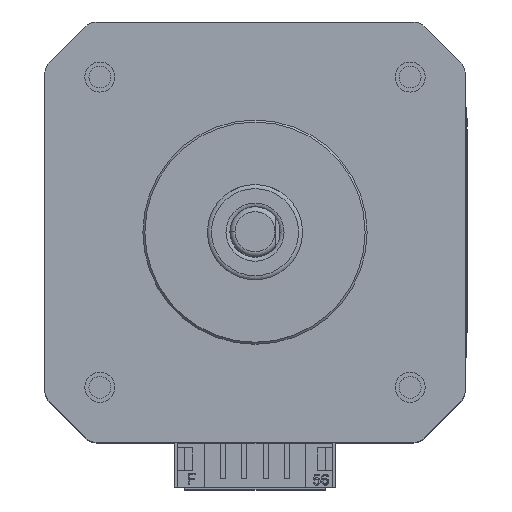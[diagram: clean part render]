
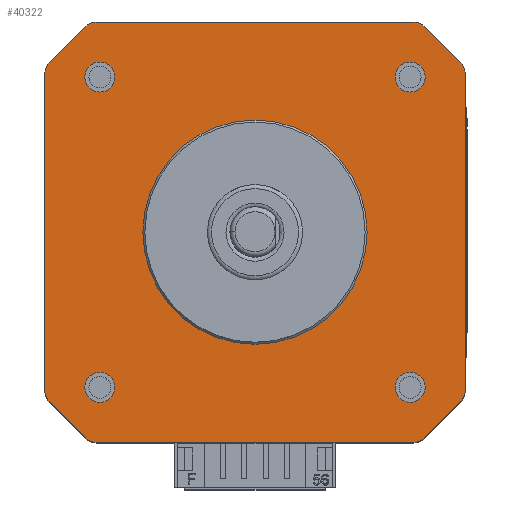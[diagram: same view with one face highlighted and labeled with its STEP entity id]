
A CAD part, top view. The second image highlights one B-rep face of the part: STEP entity #40322.
In plain terms, the highlighted planar face has unit normal (0, 0, 1).
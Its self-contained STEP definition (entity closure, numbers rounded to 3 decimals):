
#368=FACE_BOUND('',#6660,.T.);
#369=FACE_BOUND('',#6661,.T.);
#370=FACE_BOUND('',#6662,.T.);
#371=FACE_BOUND('',#6663,.T.);
#372=FACE_BOUND('',#6664,.T.);
#2126=PLANE('',#42883);
#4339=FACE_OUTER_BOUND('',#6659,.T.);
#6659=EDGE_LOOP('',(#37551,#37552,#37553,#37554,#37555,#37556,#37557,#37558,
#37559,#37560,#37561,#37562,#37563,#37564,#37565,#37566));
#6660=EDGE_LOOP('',(#37567));
#6661=EDGE_LOOP('',(#37568));
#6662=EDGE_LOOP('',(#37569));
#6663=EDGE_LOOP('',(#37570));
#6664=EDGE_LOOP('',(#37571));
#7502=CIRCLE('',#42847,1.5);
#7505=CIRCLE('',#42852,1.5);
#7508=CIRCLE('',#42857,1.5);
#7511=CIRCLE('',#42862,1.5);
#7518=CIRCLE('',#42879,11.2);
#7521=CIRCLE('',#42884,1.5);
#7522=CIRCLE('',#42885,1.5);
#7523=CIRCLE('',#42886,1.5);
#7524=CIRCLE('',#42887,1.5);
#7525=CIRCLE('',#42888,1.5);
#7526=CIRCLE('',#42889,1.5);
#7527=CIRCLE('',#42890,1.5);
#7528=CIRCLE('',#42891,1.5);
#12486=LINE('',#75076,#16242);
#12487=LINE('',#75080,#16243);
#12488=LINE('',#75084,#16244);
#12489=LINE('',#75088,#16245);
#12490=LINE('',#75092,#16246);
#12491=LINE('',#75096,#16247);
#12492=LINE('',#75100,#16248);
#12493=LINE('',#75103,#16249);
#16242=VECTOR('',#51442,10.);
#16243=VECTOR('',#51445,10.);
#16244=VECTOR('',#51448,10.);
#16245=VECTOR('',#51451,10.);
#16246=VECTOR('',#51454,10.);
#16247=VECTOR('',#51457,10.);
#16248=VECTOR('',#51460,10.);
#16249=VECTOR('',#51463,10.);
#20119=VERTEX_POINT('',#75006);
#20122=VERTEX_POINT('',#75015);
#20125=VERTEX_POINT('',#75024);
#20128=VERTEX_POINT('',#75033);
#20135=VERTEX_POINT('',#75062);
#20138=VERTEX_POINT('',#75072);
#20139=VERTEX_POINT('',#75073);
#20140=VERTEX_POINT('',#75075);
#20141=VERTEX_POINT('',#75077);
#20142=VERTEX_POINT('',#75079);
#20143=VERTEX_POINT('',#75081);
#20144=VERTEX_POINT('',#75083);
#20145=VERTEX_POINT('',#75085);
#20146=VERTEX_POINT('',#75087);
#20147=VERTEX_POINT('',#75089);
#20148=VERTEX_POINT('',#75091);
#20149=VERTEX_POINT('',#75093);
#20150=VERTEX_POINT('',#75095);
#20151=VERTEX_POINT('',#75097);
#20152=VERTEX_POINT('',#75099);
#20153=VERTEX_POINT('',#75101);
#25925=EDGE_CURVE('',#20119,#20119,#7502,.T.);
#25929=EDGE_CURVE('',#20122,#20122,#7505,.T.);
#25933=EDGE_CURVE('',#20125,#20125,#7508,.T.);
#25937=EDGE_CURVE('',#20128,#20128,#7511,.T.);
#25949=EDGE_CURVE('',#20135,#20135,#7518,.T.);
#25954=EDGE_CURVE('',#20138,#20139,#7521,.T.);
#25955=EDGE_CURVE('',#20138,#20140,#12486,.T.);
#25956=EDGE_CURVE('',#20141,#20140,#7522,.T.);
#25957=EDGE_CURVE('',#20141,#20142,#12487,.T.);
#25958=EDGE_CURVE('',#20143,#20142,#7523,.T.);
#25959=EDGE_CURVE('',#20143,#20144,#12488,.T.);
#25960=EDGE_CURVE('',#20145,#20144,#7524,.T.);
#25961=EDGE_CURVE('',#20145,#20146,#12489,.T.);
#25962=EDGE_CURVE('',#20147,#20146,#7525,.T.);
#25963=EDGE_CURVE('',#20147,#20148,#12490,.T.);
#25964=EDGE_CURVE('',#20149,#20148,#7526,.T.);
#25965=EDGE_CURVE('',#20149,#20150,#12491,.T.);
#25966=EDGE_CURVE('',#20151,#20150,#7527,.T.);
#25967=EDGE_CURVE('',#20151,#20152,#12492,.T.);
#25968=EDGE_CURVE('',#20153,#20152,#7528,.T.);
#25969=EDGE_CURVE('',#20153,#20139,#12493,.T.);
#37551=ORIENTED_EDGE('',*,*,#25954,.F.);
#37552=ORIENTED_EDGE('',*,*,#25955,.T.);
#37553=ORIENTED_EDGE('',*,*,#25956,.F.);
#37554=ORIENTED_EDGE('',*,*,#25957,.T.);
#37555=ORIENTED_EDGE('',*,*,#25958,.F.);
#37556=ORIENTED_EDGE('',*,*,#25959,.T.);
#37557=ORIENTED_EDGE('',*,*,#25960,.F.);
#37558=ORIENTED_EDGE('',*,*,#25961,.T.);
#37559=ORIENTED_EDGE('',*,*,#25962,.F.);
#37560=ORIENTED_EDGE('',*,*,#25963,.T.);
#37561=ORIENTED_EDGE('',*,*,#25964,.F.);
#37562=ORIENTED_EDGE('',*,*,#25965,.T.);
#37563=ORIENTED_EDGE('',*,*,#25966,.F.);
#37564=ORIENTED_EDGE('',*,*,#25967,.T.);
#37565=ORIENTED_EDGE('',*,*,#25968,.F.);
#37566=ORIENTED_EDGE('',*,*,#25969,.T.);
#37567=ORIENTED_EDGE('',*,*,#25925,.T.);
#37568=ORIENTED_EDGE('',*,*,#25929,.T.);
#37569=ORIENTED_EDGE('',*,*,#25933,.T.);
#37570=ORIENTED_EDGE('',*,*,#25937,.T.);
#37571=ORIENTED_EDGE('',*,*,#25949,.F.);
#40322=ADVANCED_FACE('',(#4339,#368,#369,#370,#371,#372),#2126,.T.);
#42847=AXIS2_PLACEMENT_3D('',#75007,#51356,#51357);
#42852=AXIS2_PLACEMENT_3D('',#75016,#51367,#51368);
#42857=AXIS2_PLACEMENT_3D('',#75025,#51378,#51379);
#42862=AXIS2_PLACEMENT_3D('',#75034,#51389,#51390);
#42879=AXIS2_PLACEMENT_3D('',#75063,#51428,#51429);
#42883=AXIS2_PLACEMENT_3D('',#75071,#51438,#51439);
#42884=AXIS2_PLACEMENT_3D('',#75074,#51440,#51441);
#42885=AXIS2_PLACEMENT_3D('',#75078,#51443,#51444);
#42886=AXIS2_PLACEMENT_3D('',#75082,#51446,#51447);
#42887=AXIS2_PLACEMENT_3D('',#75086,#51449,#51450);
#42888=AXIS2_PLACEMENT_3D('',#75090,#51452,#51453);
#42889=AXIS2_PLACEMENT_3D('',#75094,#51455,#51456);
#42890=AXIS2_PLACEMENT_3D('',#75098,#51458,#51459);
#42891=AXIS2_PLACEMENT_3D('',#75102,#51461,#51462);
#51356=DIRECTION('center_axis',(0.,0.,-1.));
#51357=DIRECTION('ref_axis',(-1.,0.,0.));
#51367=DIRECTION('center_axis',(0.,0.,-1.));
#51368=DIRECTION('ref_axis',(-1.,0.,0.));
#51378=DIRECTION('center_axis',(0.,0.,-1.));
#51379=DIRECTION('ref_axis',(-1.,0.,0.));
#51389=DIRECTION('center_axis',(0.,0.,-1.));
#51390=DIRECTION('ref_axis',(-1.,0.,0.));
#51428=DIRECTION('center_axis',(0.,0.,1.));
#51429=DIRECTION('ref_axis',(-1.,0.,0.));
#51438=DIRECTION('center_axis',(0.,0.,1.));
#51439=DIRECTION('ref_axis',(1.,0.,0.));
#51440=DIRECTION('center_axis',(0.,0.,-1.));
#51441=DIRECTION('ref_axis',(0.383,0.924,0.));
#51442=DIRECTION('',(-1.,0.,0.));
#51443=DIRECTION('center_axis',(0.,0.,-1.));
#51444=DIRECTION('ref_axis',(-0.383,0.924,0.));
#51445=DIRECTION('',(-0.707,-0.707,0.));
#51446=DIRECTION('center_axis',(0.,0.,-1.));
#51447=DIRECTION('ref_axis',(-0.924,0.383,0.));
#51448=DIRECTION('',(0.,-1.,0.));
#51449=DIRECTION('center_axis',(0.,0.,-1.));
#51450=DIRECTION('ref_axis',(-0.924,-0.383,0.));
#51451=DIRECTION('',(0.707,-0.707,0.));
#51452=DIRECTION('center_axis',(0.,0.,-1.));
#51453=DIRECTION('ref_axis',(-0.383,-0.924,0.));
#51454=DIRECTION('',(1.,0.,0.));
#51455=DIRECTION('center_axis',(0.,0.,-1.));
#51456=DIRECTION('ref_axis',(0.383,-0.924,0.));
#51457=DIRECTION('',(0.707,0.707,0.));
#51458=DIRECTION('center_axis',(0.,0.,-1.));
#51459=DIRECTION('ref_axis',(0.924,-0.383,0.));
#51460=DIRECTION('',(0.,1.,0.));
#51461=DIRECTION('center_axis',(0.,0.,-1.));
#51462=DIRECTION('ref_axis',(0.924,0.383,0.));
#51463=DIRECTION('',(-0.707,0.707,0.));
#75006=CARTESIAN_POINT('',(-14.,-15.5,37.5));
#75007=CARTESIAN_POINT('Origin',(-15.5,-15.5,37.5));
#75015=CARTESIAN_POINT('',(-14.,15.5,37.5));
#75016=CARTESIAN_POINT('Origin',(-15.5,15.5,37.5));
#75024=CARTESIAN_POINT('',(17.,-15.5,37.5));
#75025=CARTESIAN_POINT('Origin',(15.5,-15.5,37.5));
#75033=CARTESIAN_POINT('',(17.,15.5,37.5));
#75034=CARTESIAN_POINT('Origin',(15.5,15.5,37.5));
#75062=CARTESIAN_POINT('',(11.2,0.,37.5));
#75063=CARTESIAN_POINT('Origin',(0.,0.,37.5));
#75071=CARTESIAN_POINT('Origin',(0.,0.,37.5));
#75072=CARTESIAN_POINT('',(15.879,21.,37.5));
#75073=CARTESIAN_POINT('',(16.939,20.561,37.5));
#75074=CARTESIAN_POINT('Origin',(15.879,19.5,37.5));
#75075=CARTESIAN_POINT('',(-15.879,21.,37.5));
#75076=CARTESIAN_POINT('',(-16.5,21.,37.5));
#75077=CARTESIAN_POINT('',(-16.939,20.561,37.5));
#75078=CARTESIAN_POINT('Origin',(-15.879,19.5,37.5));
#75079=CARTESIAN_POINT('',(-20.561,16.939,37.5));
#75080=CARTESIAN_POINT('',(-16.5,21.,37.5));
#75081=CARTESIAN_POINT('',(-21.,15.879,37.5));
#75082=CARTESIAN_POINT('Origin',(-19.5,15.879,37.5));
#75083=CARTESIAN_POINT('',(-21.,-15.879,37.5));
#75084=CARTESIAN_POINT('',(-21.,-16.5,37.5));
#75085=CARTESIAN_POINT('',(-20.561,-16.939,37.5));
#75086=CARTESIAN_POINT('Origin',(-19.5,-15.879,37.5));
#75087=CARTESIAN_POINT('',(-16.939,-20.561,37.5));
#75088=CARTESIAN_POINT('',(-16.5,-21.,37.5));
#75089=CARTESIAN_POINT('',(-15.879,-21.,37.5));
#75090=CARTESIAN_POINT('Origin',(-15.879,-19.5,37.5));
#75091=CARTESIAN_POINT('',(15.879,-21.,37.5));
#75092=CARTESIAN_POINT('',(16.5,-21.,37.5));
#75093=CARTESIAN_POINT('',(16.939,-20.561,37.5));
#75094=CARTESIAN_POINT('Origin',(15.879,-19.5,37.5));
#75095=CARTESIAN_POINT('',(20.561,-16.939,37.5));
#75096=CARTESIAN_POINT('',(16.5,-21.,37.5));
#75097=CARTESIAN_POINT('',(21.,-15.879,37.5));
#75098=CARTESIAN_POINT('Origin',(19.5,-15.879,37.5));
#75099=CARTESIAN_POINT('',(21.,15.879,37.5));
#75100=CARTESIAN_POINT('',(21.,16.5,37.5));
#75101=CARTESIAN_POINT('',(20.561,16.939,37.5));
#75102=CARTESIAN_POINT('Origin',(19.5,15.879,37.5));
#75103=CARTESIAN_POINT('',(16.5,21.,37.5));
